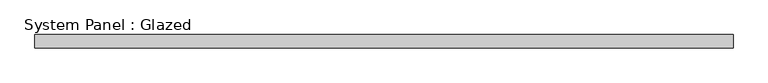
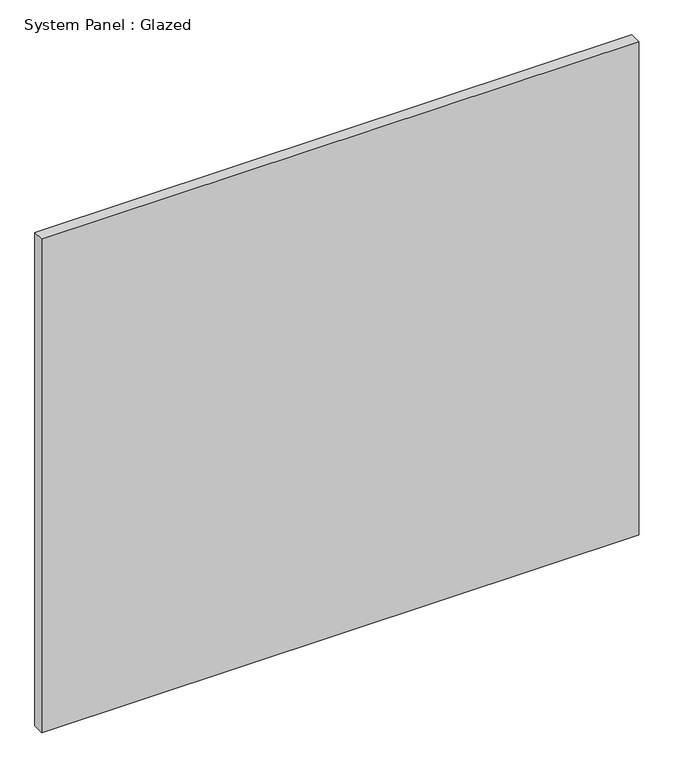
"""IFC4 building model written with IfcOpenShell, lengths in millimetres: plate geometry, System Panel : Glazed."""

from ifc_helpers import new_model, si_unit, origin, origin_with_axes, place, context, project, spatial, polyline, outline, extrude, source, transform, mapped, element, save


def system_panel_glazed_1cdce68f(model_context):
    return source(origin(), model_context, "Body", "SweptSolid", [
        extrude(outline(polyline([(643.3333333, 24.5), (-643.3333333, 24.5), (-643.3333333, 49.5), (643.3333333, 49.5), (643.3333333, 24.5)])), origin_with_axes(), (0.0, 0.0, 1.0), 1125.0),
    ])


if __name__ == "__main__":
    model = new_model("IFC4")
    model_context = context("Model", 3, world=origin())
    ifc_project = project(units=[si_unit("LENGTHUNIT", "METRE", prefix="MILLI")], contexts=[model_context])
    site = spatial("IfcSite", under=ifc_project)
    building = spatial("IfcBuilding", under=site)
    placement = place(None, origin())
    system_panel_glazed_shape = system_panel_glazed_1cdce68f(model_context)
    element("IfcPlate", 1, ObjectType="System Panel : Glazed", at=placement, inside=building, context=model_context, shape_type="MappedRepresentation", body=[
        mapped(system_panel_glazed_shape, transform((0.0, 0.0, 0.0), x_axis=(1.0, 0.0, 0.0), y_axis=(0.0, 1.0, 0.0), z_axis=(0.0, 0.0, 1.0))),
    ])
    save(model, "model.ifc")
